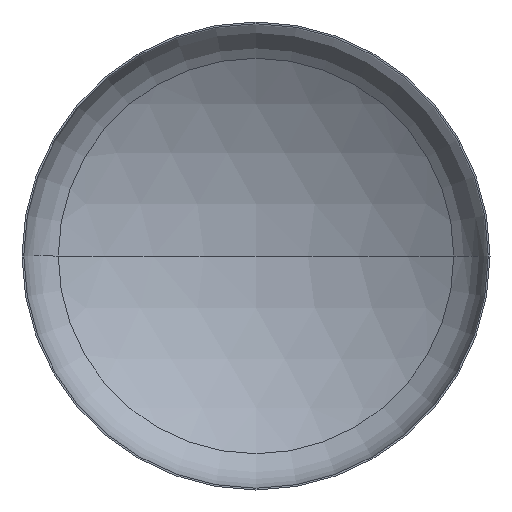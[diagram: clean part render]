
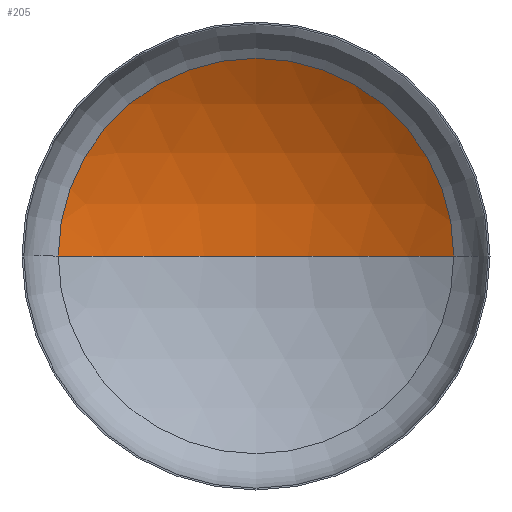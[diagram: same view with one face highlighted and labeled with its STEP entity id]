
A CAD part, front view. The second image highlights one B-rep face of the part: STEP entity #205.
In plain terms, the highlighted spherical face has radius 640 mm.
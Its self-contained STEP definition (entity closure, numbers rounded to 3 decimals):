
#5 = AXIS2_PLACEMENT_3D ( 'NONE', #153, #183, #151 ) ;
#17 = AXIS2_PLACEMENT_3D ( 'NONE', #70, #66, #62 ) ;
#18 = AXIS2_PLACEMENT_3D ( 'NONE', #98, #300, #60 ) ;
#19 = AXIS2_PLACEMENT_3D ( 'NONE', #192, #173, #174 ) ;
#37 = CARTESIAN_POINT ( 'NONE',  ( 0., 222.689, 0. ) ) ;
#60 = DIRECTION ( 'NONE',  ( -1., 0., 0. ) ) ;
#61 = EDGE_CURVE ( 'NONE', #341, #307, #182, .T. ) ;
#62 = DIRECTION ( 'NONE',  ( 1., 0., 0. ) ) ;
#63 = EDGE_CURVE ( 'NONE', #79, #341, #246, .T. ) ;
#64 = EDGE_CURVE ( 'NONE', #79, #307, #171, .T. ) ;
#66 = DIRECTION ( 'NONE',  ( 0., 0., 1. ) ) ;
#70 = CARTESIAN_POINT ( 'NONE',  ( 0., -417.311, 0. ) ) ;
#79 = VERTEX_POINT ( 'NONE', #37 ) ;
#98 = CARTESIAN_POINT ( 'NONE',  ( 0., -417.311, 0. ) ) ;
#115 = CARTESIAN_POINT ( 'NONE',  ( 338.019, 126.143, 0. ) ) ;
#140 = CARTESIAN_POINT ( 'NONE',  ( -338.019, 126.143, 0. ) ) ;
#151 = DIRECTION ( 'NONE',  ( -1., 0., 0. ) ) ;
#153 = CARTESIAN_POINT ( 'NONE',  ( 0., -417.311, 0. ) ) ;
#155 = SPHERICAL_SURFACE ( 'NONE', #5, 640. ) ;
#171 = CIRCLE ( 'NONE', #17, 640. ) ;
#173 = DIRECTION ( 'NONE',  ( 0., -1., 0. ) ) ;
#174 = DIRECTION ( 'NONE',  ( 1., 0., 0. ) ) ;
#182 = CIRCLE ( 'NONE', #19, 338.019 ) ;
#183 = DIRECTION ( 'NONE',  ( 0., 0., -1. ) ) ;
#192 = CARTESIAN_POINT ( 'NONE',  ( 0., 126.143, 0. ) ) ;
#205 = ADVANCED_FACE ( 'NONE', ( #376 ), #155, .F. ) ;
#246 = CIRCLE ( 'NONE', #18, 640. ) ;
#270 = EDGE_LOOP ( 'NONE', ( #391, #319, #349 ) ) ;
#300 = DIRECTION ( 'NONE',  ( 0., 0., -1. ) ) ;
#307 = VERTEX_POINT ( 'NONE', #140 ) ;
#319 = ORIENTED_EDGE ( 'NONE', *, *, #63, .T. ) ;
#341 = VERTEX_POINT ( 'NONE', #115 ) ;
#349 = ORIENTED_EDGE ( 'NONE', *, *, #61, .T. ) ;
#376 = FACE_OUTER_BOUND ( 'NONE', #270, .T. ) ;
#391 = ORIENTED_EDGE ( 'NONE', *, *, #64, .F. ) ;
